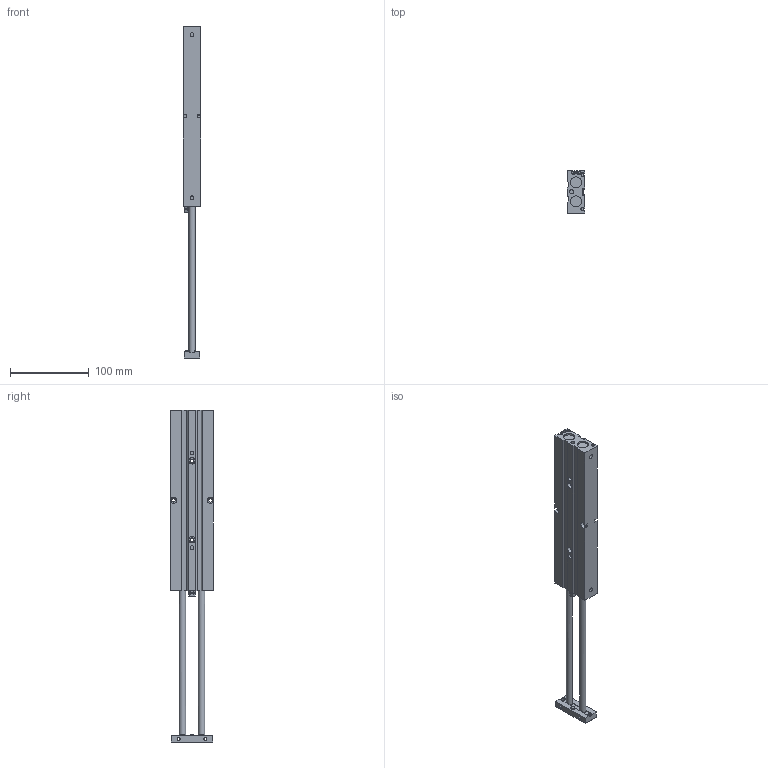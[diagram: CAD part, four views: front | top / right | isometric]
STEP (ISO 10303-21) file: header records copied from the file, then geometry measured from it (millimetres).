
FILE_DESCRIPTION((''),'2;1');
FILE_NAME('I:\3D電子目錄\氣缸\TD\TD16\TD16\TD16x175.stp','2007-08-06T09:38:37',('Administrator'),(''),'Autodesk Inventor 2008','Autodesk Inventor 2008','');
FILE_SCHEMA(('AUTOMOTIVE_DESIGN { 1 0 10303 214 1 1 1 1 }'));
Length unit declared in the file: millimetre
Products named in the file (1): TD16X175
Bounding box: 22 x 54 x 421 mm (x, y, z)
Volume: 270132.4 mm3; surface area: 63790.7 mm2
Topology: 1 solids, 3 shells, 179 faces, 465 edges, 304 vertices
Faces by surface type: plane 116, cylinder 42, bspline 12, cone 7, torus 2
Full cylindrical faces by diameter (mm): 4 x4, 4.5 x4, 5 x8, 6 x2, 7 x2, 8 x4, 14 x4
Entity records: 5819 total; most frequent: CARTESIAN_POINT 1627, ORIENTED_EDGE 824, DIRECTION 820, EDGE_CURVE 412, VERTEX_POINT 292, AXIS2_PLACEMENT_3D 274, VECTOR 272, LINE 272
